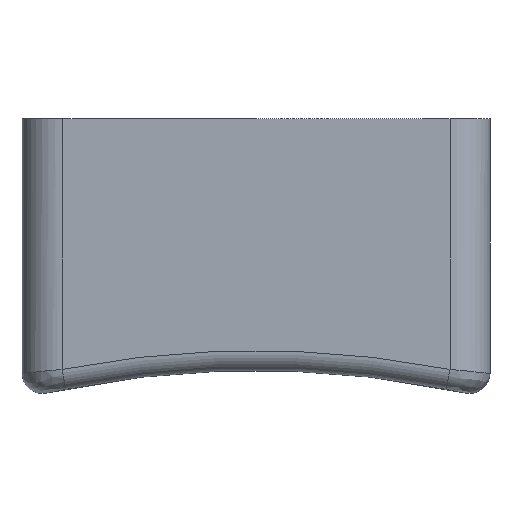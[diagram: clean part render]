
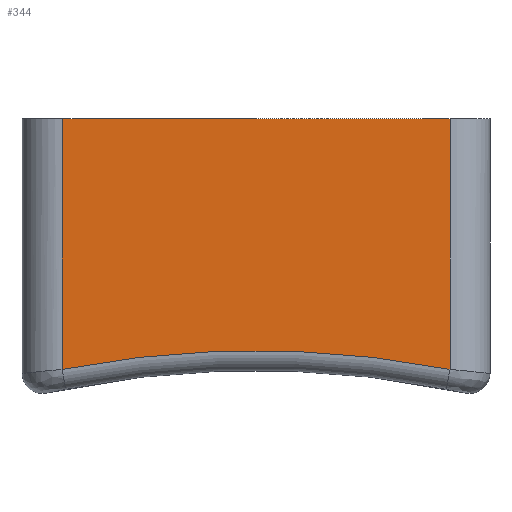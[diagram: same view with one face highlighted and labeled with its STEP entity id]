
A CAD part, front view. The second image highlights one B-rep face of the part: STEP entity #344.
In plain terms, the highlighted planar face has unit normal (0, -1, 0).
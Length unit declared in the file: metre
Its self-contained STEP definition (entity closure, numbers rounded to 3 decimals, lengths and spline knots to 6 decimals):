
#44=CIRCLE('',#389,0.025295);
#76=ORIENTED_EDGE('',*,*,#180,.T.);
#77=ORIENTED_EDGE('',*,*,#181,.T.);
#78=ORIENTED_EDGE('',*,*,#182,.T.);
#79=ORIENTED_EDGE('',*,*,#168,.F.);
#168=EDGE_CURVE('',#220,#221,#250,.T.);
#180=EDGE_CURVE('',#220,#232,#256,.T.);
#181=EDGE_CURVE('',#232,#233,#44,.F.);
#182=EDGE_CURVE('',#233,#221,#257,.F.);
#220=VERTEX_POINT('',#540);
#221=VERTEX_POINT('',#542);
#232=VERTEX_POINT('',#566);
#233=VERTEX_POINT('',#568);
#250=LINE('',#541,#270);
#256=LINE('',#565,#276);
#257=LINE('',#569,#277);
#270=VECTOR('',#432,1.);
#276=VECTOR('',#452,1.);
#277=VECTOR('',#455,1.);
#290=EDGE_LOOP('',(#76,#77,#78,#79));
#314=FACE_BOUND('',#290,.T.);
#337=PLANE('',#388);
#344=ADVANCED_FACE('',(#314),#337,.T.);
#388=AXIS2_PLACEMENT_3D('',#564,#450,#451);
#389=AXIS2_PLACEMENT_3D('',#567,#453,#454);
#432=DIRECTION('',(1.,0.,0.));
#450=DIRECTION('',(0.,-1.,0.));
#451=DIRECTION('',(1.,0.,0.));
#452=DIRECTION('',(0.,0.,-1.));
#453=DIRECTION('',(0.,-1.,0.));
#454=DIRECTION('',(0.,0.,-1.));
#455=DIRECTION('',(0.,0.,-1.));
#540=CARTESIAN_POINT('',(-0.00485,-0.002125,0.));
#541=CARTESIAN_POINT('',(0.,-0.002125,0.));
#542=CARTESIAN_POINT('',(0.00485,-0.002125,0.));
#564=CARTESIAN_POINT('',(0.,-0.002125,-0.002925));
#565=CARTESIAN_POINT('',(-0.00485,-0.002125,-0.007));
#566=CARTESIAN_POINT('',(-0.00485,-0.002125,-0.006269));
#567=CARTESIAN_POINT('',(0.,-0.002125,-0.031095));
#568=CARTESIAN_POINT('',(0.00485,-0.002125,-0.006269));
#569=CARTESIAN_POINT('',(0.00485,-0.002125,-0.002925));
